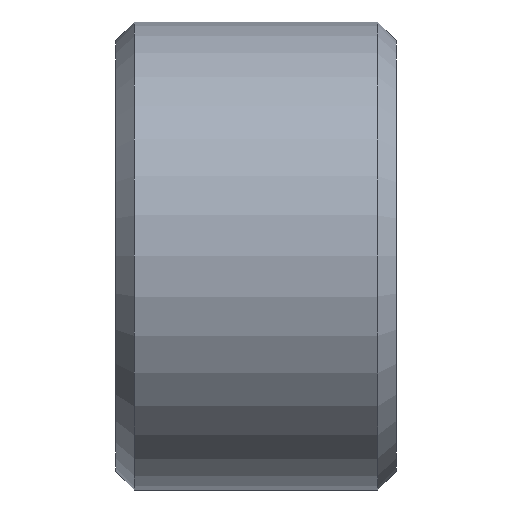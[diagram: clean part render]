
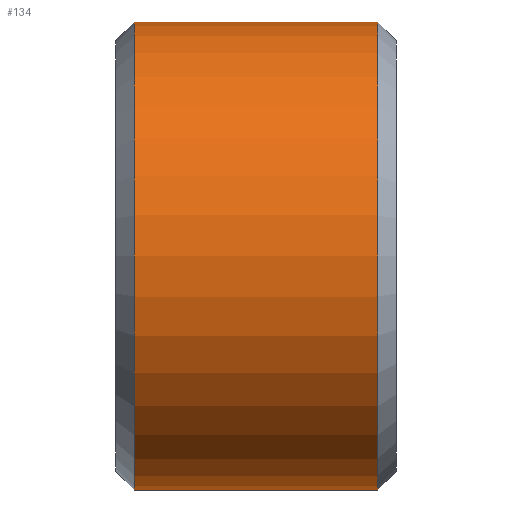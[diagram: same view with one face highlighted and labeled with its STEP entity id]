
A CAD part, front view. The second image highlights one B-rep face of the part: STEP entity #134.
In plain terms, the highlighted cylindrical face has radius 12.5 mm (diameter 25 mm), a full revolution.
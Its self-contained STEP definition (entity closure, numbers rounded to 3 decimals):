
#19=CYLINDRICAL_SURFACE('',#168,12.5);
#22=FACE_OUTER_BOUND('',#30,.T.);
#30=EDGE_LOOP('',(#98,#99,#100,#101,#102,#103));
#40=LINE('',#243,#46);
#46=VECTOR('',#197,12.5);
#52=CIRCLE('',#166,12.5);
#53=CIRCLE('',#167,12.5);
#54=CIRCLE('',#169,12.5);
#55=CIRCLE('',#170,12.5);
#64=VERTEX_POINT('',#236);
#65=VERTEX_POINT('',#238);
#66=VERTEX_POINT('',#242);
#67=VERTEX_POINT('',#244);
#77=EDGE_CURVE('',#64,#65,#52,.T.);
#78=EDGE_CURVE('',#65,#64,#53,.T.);
#79=EDGE_CURVE('',#65,#66,#40,.T.);
#80=EDGE_CURVE('',#67,#66,#54,.T.);
#81=EDGE_CURVE('',#66,#67,#55,.T.);
#98=ORIENTED_EDGE('',*,*,#77,.F.);
#99=ORIENTED_EDGE('',*,*,#78,.F.);
#100=ORIENTED_EDGE('',*,*,#79,.T.);
#101=ORIENTED_EDGE('',*,*,#80,.F.);
#102=ORIENTED_EDGE('',*,*,#81,.F.);
#103=ORIENTED_EDGE('',*,*,#79,.F.);
#134=ADVANCED_FACE('',(#22),#19,.T.);
#166=AXIS2_PLACEMENT_3D('',#239,#191,#192);
#167=AXIS2_PLACEMENT_3D('',#240,#193,#194);
#168=AXIS2_PLACEMENT_3D('',#241,#195,#196);
#169=AXIS2_PLACEMENT_3D('',#245,#198,#199);
#170=AXIS2_PLACEMENT_3D('',#246,#200,#201);
#191=DIRECTION('center_axis',(1.,0.,0.));
#192=DIRECTION('ref_axis',(0.,-1.,0.));
#193=DIRECTION('center_axis',(1.,0.,0.));
#194=DIRECTION('ref_axis',(0.,-1.,0.));
#195=DIRECTION('center_axis',(1.,0.,0.));
#196=DIRECTION('ref_axis',(0.,1.,0.));
#197=DIRECTION('',(-1.,0.,0.));
#198=DIRECTION('center_axis',(-1.,0.,0.));
#199=DIRECTION('ref_axis',(0.,-1.,0.));
#200=DIRECTION('center_axis',(-1.,0.,0.));
#201=DIRECTION('ref_axis',(0.,-1.,0.));
#236=CARTESIAN_POINT('',(6.5,12.5,0.));
#238=CARTESIAN_POINT('',(6.5,-12.5,0.));
#239=CARTESIAN_POINT('Origin',(6.5,0.,0.));
#240=CARTESIAN_POINT('Origin',(6.5,0.,0.));
#241=CARTESIAN_POINT('Origin',(0.,0.,
0.));
#242=CARTESIAN_POINT('',(-6.5,-12.5,0.));
#243=CARTESIAN_POINT('',(0.,-12.5,0.));
#244=CARTESIAN_POINT('',(-6.5,12.5,0.));
#245=CARTESIAN_POINT('Origin',(-6.5,0.,
0.));
#246=CARTESIAN_POINT('Origin',(-6.5,0.,
0.));
